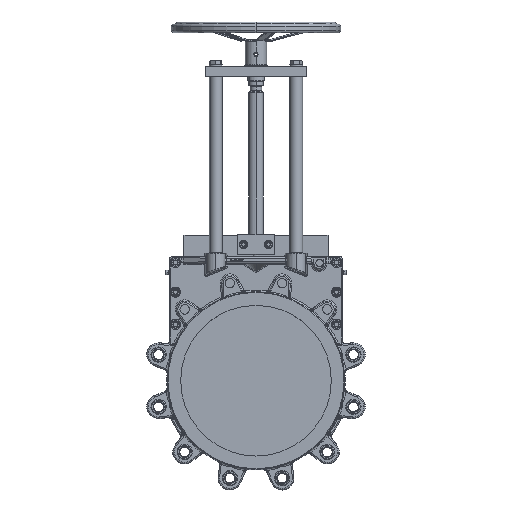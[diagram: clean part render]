
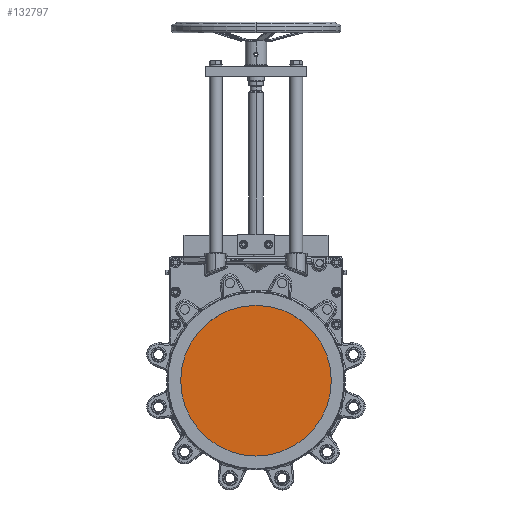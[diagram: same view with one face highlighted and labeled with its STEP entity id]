
A CAD part, top view. The second image highlights one B-rep face of the part: STEP entity #132797.
In plain terms, the highlighted planar face has unit normal (0, 0, 1).
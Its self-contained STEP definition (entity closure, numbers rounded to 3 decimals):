
#1699 = FACE_OUTER_BOUND ( 'NONE', #6223, .T. ) ;
#2759 = DIRECTION ( 'NONE',  ( 0., 0., 1. ) ) ;
#6223 = EDGE_LOOP ( 'NONE', ( #136780, #125291 ) ) ;
#22941 = AXIS2_PLACEMENT_3D ( 'NONE', #75221, #104978, #84248 ) ;
#25677 = CIRCLE ( 'NONE', #103173, 177.8 ) ;
#25791 = AXIS2_PLACEMENT_3D ( 'NONE', #80835, #100885, #124480 ) ;
#48629 = EDGE_CURVE ( 'NONE', #128291, #88020, #67935, .T. ) ;
#67935 = CIRCLE ( 'NONE', #25791, 177.8 ) ;
#75221 = CARTESIAN_POINT ( 'NONE',  ( 0., 0., -0.25 ) ) ;
#80835 = CARTESIAN_POINT ( 'NONE',  ( 0., 0., -0.25 ) ) ;
#81895 = EDGE_CURVE ( 'NONE', #88020, #128291, #25677, .T. ) ;
#82376 = CARTESIAN_POINT ( 'NONE',  ( 177.8, 0., -0.25 ) ) ;
#84248 = DIRECTION ( 'NONE',  ( 1., 0., 0. ) ) ;
#88020 = VERTEX_POINT ( 'NONE', #115620 ) ;
#92049 = DIRECTION ( 'NONE',  ( 1., 0., 0. ) ) ;
#100885 = DIRECTION ( 'NONE',  ( 0., 0., 1. ) ) ;
#103173 = AXIS2_PLACEMENT_3D ( 'NONE', #108097, #2759, #92049 ) ;
#104978 = DIRECTION ( 'NONE',  ( 0., 0., 1. ) ) ;
#108097 = CARTESIAN_POINT ( 'NONE',  ( 0., 0., -0.25 ) ) ;
#115620 = CARTESIAN_POINT ( 'NONE',  ( -177.8, 0., -0.25 ) ) ;
#117446 = PLANE ( 'NONE',  #22941 ) ;
#124480 = DIRECTION ( 'NONE',  ( 1., 0., 0. ) ) ;
#125291 = ORIENTED_EDGE ( 'NONE', *, *, #81895, .T. ) ;
#128291 = VERTEX_POINT ( 'NONE', #82376 ) ;
#132797 = ADVANCED_FACE ( 'NONE', ( #1699 ), #117446, .T. ) ;
#136780 = ORIENTED_EDGE ( 'NONE', *, *, #48629, .T. ) ;
